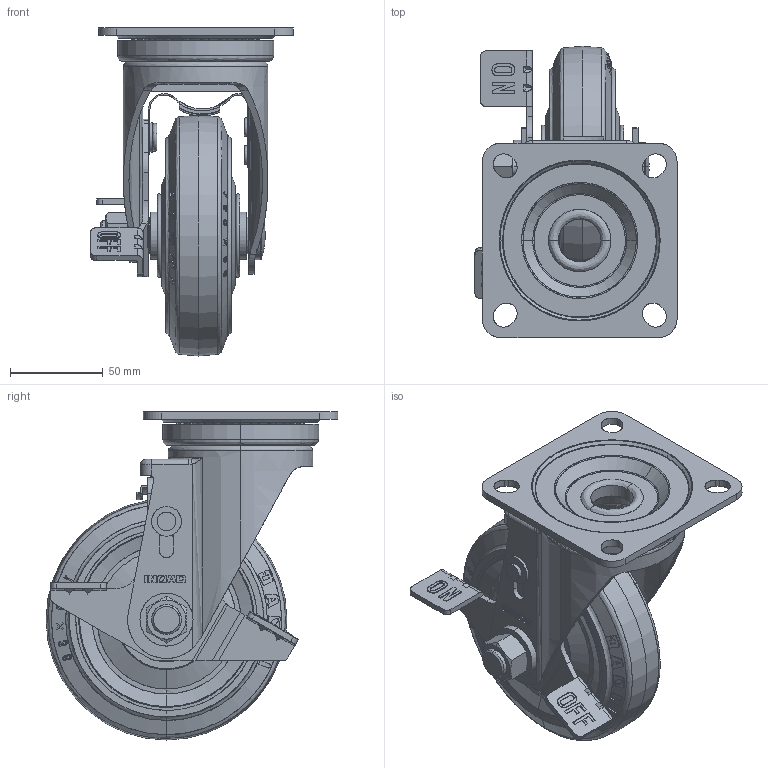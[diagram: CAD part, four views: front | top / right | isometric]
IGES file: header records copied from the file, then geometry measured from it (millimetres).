
Start section: SolidWorks IGES file using analytic representation for surfaces
Global section: file name: C:\Users\TTS8\Desktop\AK0920-210312_GR-130WJB_OFF.IGS; native system: SolidWorks 2019; preprocessor: SolidWorks 2019; author: TTS8; date: 210405.113943; units: millimetre
Bounding box: 109 x 157.5 x 177 mm (x, y, z)
Surface area: 259326.9 mm2 (no closed solid volume)
Topology: 0 solids, 0 shells, 1366 faces, 19480 edges, 19290 vertices
Faces by surface type: bspline 820, revolution 546
